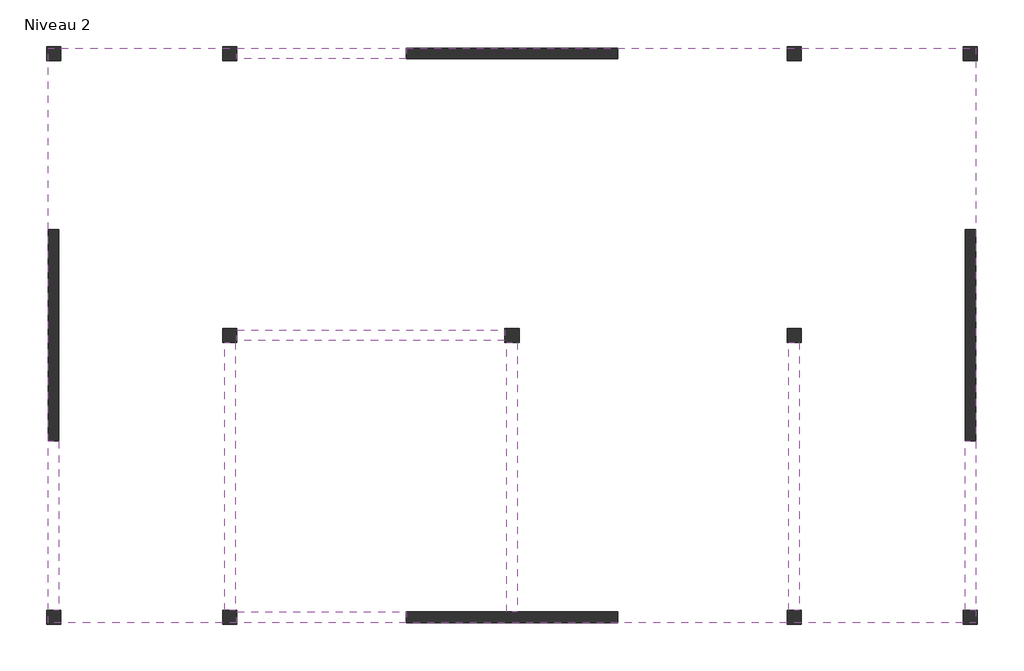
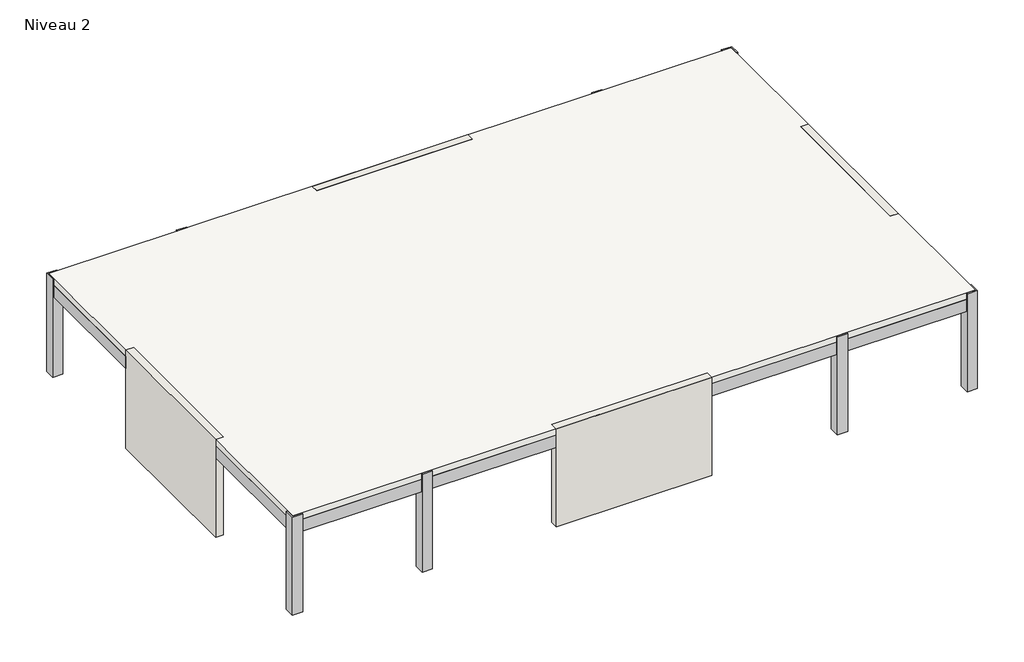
# One storey: 11 columns, 8 beams, 4 walls, 1 slab.
"""IFC4 building model written with IfcOpenShell, lengths in millimetres."""

from ifc_helpers import new_model, si_unit, frame, origin, place, context, project, spatial, polyline, outline, extrude, faceted_brep, element, save

model = new_model("IFC4")

# Units and contexts
model_context = context("Model", 3, world=origin())
ifc_project = project(units=[si_unit("LENGTHUNIT", "METRE", prefix="MILLI")], contexts=[model_context])

# Site, building, storey
site = spatial("IfcSite", under=ifc_project)
building = spatial("IfcBuilding", under=site)
storey = spatial("IfcBuildingStorey", under=building, Name="Niveau 2", Elevation=8000.0)

# Beams
placement = place(None, origin())
element("IfcBeam", 1, ObjectType="Poutre rectangulaire - Béton : 300 x 750 mm", at=placement, inside=storey, context=model_context, shape_type="SweptSolid", body=[
    extrude(outline(polyline([(-16808.6650278, 7952.7596515), (-16508.6650278, 7952.7596515), (-16508.6650278, 3152.7596515), (-16808.6650278, 3152.7596515), (-16808.6650278, 7952.7596515)])), frame((0.0, 0.0, 11250.0), z_axis=(0.0, 0.0, 1.0), x_axis=(1.0, 0.0, 0.0)), (0.0, 0.0, 1.0), 500.0),
    extrude(outline(polyline([(-16508.6650278, -7647.2403485), (-16808.6650278, -7647.2403485), (-16808.6650278, -2847.2403485), (-16508.6650278, -2847.2403485), (-16508.6650278, -7647.2403485)])), frame((0.0, 0.0, 11250.0), z_axis=(0.0, 0.0, 1.0), x_axis=(1.0, 0.0, 0.0)), (0.0, 0.0, 1.0), 500.0),
])
element("IfcBeam", 2, ObjectType="Poutre rectangulaire - Béton : 300 x 750 mm", at=placement, inside=storey, context=model_context, shape_type="SweptSolid", body=[
    extrude(outline(polyline([(-11808.6650278, 7952.7596515), (-11508.6650278, 7952.7596515), (-11508.6650278, 352.7596515), (-11808.6650278, 352.7596515), (-11808.6650278, 7952.7596515)])), frame((0.0, 0.0, 11250.0), z_axis=(0.0, 0.0, 1.0), x_axis=(1.0, 0.0, 0.0)), (0.0, 0.0, 1.0), 500.0),
    extrude(outline(polyline([(-11808.6650278, -47.2403485), (-11508.6650278, -47.2403485), (-11508.6650278, -7647.2403485), (-11808.6650278, -7647.2403485), (-11808.6650278, -47.2403485)])), frame((0.0, 0.0, 11250.0), z_axis=(0.0, 0.0, 1.0), x_axis=(1.0, 0.0, 0.0)), (0.0, 0.0, 1.0), 500.0),
])
element("IfcBeam", 3, ObjectType="Poutre rectangulaire - Béton : 300 x 750 mm", at=placement, inside=storey, context=model_context, shape_type="SweptSolid", body=[
    extrude(outline(polyline([(4491.3349722, 352.7596515), (4191.3349722, 352.7596515), (4191.3349722, 7952.7596515), (4491.3349722, 7952.7596515), (4491.3349722, 352.7596515)])), frame((0.0, 0.0, 11250.0), z_axis=(0.0, 0.0, 1.0), x_axis=(1.0, 0.0, 0.0)), (0.0, 0.0, 1.0), 500.0),
    extrude(outline(polyline([(4491.3349722, -7647.2403485), (4191.3349722, -7647.2403485), (4191.3349722, -47.2403485), (4491.3349722, -47.2403485), (4491.3349722, -7647.2403485)])), frame((0.0, 0.0, 11250.0), z_axis=(0.0, 0.0, 1.0), x_axis=(1.0, 0.0, 0.0)), (0.0, 0.0, 1.0), 500.0),
])
element("IfcBeam", 4, ObjectType="Poutre rectangulaire - Béton : 300 x 750 mm", at=placement, inside=storey, context=model_context, shape_type="SweptSolid", body=[
    extrude(outline(polyline([(9191.3349722, 7952.7596515), (9491.3349722, 7952.7596515), (9491.3349722, 3152.7596515), (9191.3349722, 3152.7596515), (9191.3349722, 7952.7596515)])), frame((0.0, 0.0, 11250.0), z_axis=(0.0, 0.0, 1.0), x_axis=(1.0, 0.0, 0.0)), (0.0, 0.0, 1.0), 500.0),
    extrude(outline(polyline([(9491.3349722, -7647.2403485), (9191.3349722, -7647.2403485), (9191.3349722, -2847.2403485), (9491.3349722, -2847.2403485), (9491.3349722, -7647.2403485)])), frame((0.0, 0.0, 11250.0), z_axis=(0.0, 0.0, 1.0), x_axis=(1.0, 0.0, 0.0)), (0.0, 0.0, 1.0), 500.0),
])
element("IfcBeam", 5, ObjectType="Poutre rectangulaire - Béton : 300 x 750 mm", at=placement, inside=storey, context=model_context, shape_type="SweptSolid", body=[
    extrude(outline(polyline([(9191.3349722, 302.7596515), (9191.3349722, 2.7596515), (4541.3349722, 2.7596515), (4541.3349722, 302.7596515), (9191.3349722, 302.7596515)])), frame((0.0, 0.0, 11250.0), z_axis=(0.0, 0.0, 1.0), x_axis=(1.0, 0.0, 0.0)), (0.0, 0.0, 1.0), 500.0),
    extrude(outline(polyline([(-16508.6650278, 2.7596515), (-16508.6650278, 302.7596515), (-11858.6650278, 302.7596515), (-11858.6650278, 2.7596515), (-16508.6650278, 2.7596515)])), frame((0.0, 0.0, 11250.0), z_axis=(0.0, 0.0, 1.0), x_axis=(1.0, 0.0, 0.0)), (0.0, 0.0, 1.0), 500.0),
    extrude(outline(polyline([(-11458.6650278, 2.7596515), (-11458.6650278, 302.7596515), (-3858.6650278, 302.7596515), (-3858.6650278, 2.7596515), (-11458.6650278, 2.7596515)])), frame((0.0, 0.0, 11250.0), z_axis=(0.0, 0.0, 1.0), x_axis=(1.0, 0.0, 0.0)), (0.0, 0.0, 1.0), 500.0),
    extrude(outline(polyline([(-3458.6650278, 2.7596515), (-3458.6650278, 302.7596515), (4141.3349722, 302.7596515), (4141.3349722, 2.7596515), (-3458.6650278, 2.7596515)])), frame((0.0, 0.0, 11250.0), z_axis=(0.0, 0.0, 1.0), x_axis=(1.0, 0.0, 0.0)), (0.0, 0.0, 1.0), 500.0),
])
element("IfcBeam", 6, ObjectType="Poutre rectangulaire - Béton : 300 x 750 mm", at=placement, inside=storey, context=model_context, shape_type="SweptSolid", body=[
    extrude(outline(polyline([(-3508.6650278, 8002.7596515), (-3508.6650278, 352.7596515), (-3808.6650278, 352.7596515), (-3808.6650278, 8002.7596515), (-3508.6650278, 8002.7596515)])), frame((0.0, 0.0, 11250.0), z_axis=(0.0, 0.0, 1.0), x_axis=(1.0, 0.0, 0.0)), (0.0, 0.0, 1.0), 500.0),
    extrude(outline(polyline([(-3508.6650278, -47.2403485), (-3508.6650278, -7697.2403485), (-3808.6650278, -7697.2403485), (-3808.6650278, -47.2403485), (-3508.6650278, -47.2403485)])), frame((0.0, 0.0, 11250.0), z_axis=(0.0, 0.0, 1.0), x_axis=(1.0, 0.0, 0.0)), (0.0, 0.0, 1.0), 500.0),
])
element("IfcBeam", 7, ObjectType="Poutre rectangulaire - Béton : 300 x 750 mm", at=placement, inside=storey, context=model_context, shape_type="SweptSolid", body=[
    extrude(outline(polyline([(-16458.6650278, -7997.2403485), (-16458.6650278, -7697.2403485), (-11858.6650278, -7697.2403485), (-11858.6650278, -7997.2403485), (-16458.6650278, -7997.2403485)])), frame((0.0, 0.0, 11250.0), z_axis=(0.0, 0.0, 1.0), x_axis=(1.0, 0.0, 0.0)), (0.0, 0.0, 1.0), 500.0),
    extrude(outline(polyline([(-11458.6650278, -7997.2403485), (-11458.6650278, -7697.2403485), (-6658.6650278, -7697.2403485), (-6658.6650278, -7997.2403485), (-11458.6650278, -7997.2403485)])), frame((0.0, 0.0, 11250.0), z_axis=(0.0, 0.0, 1.0), x_axis=(1.0, 0.0, 0.0)), (0.0, 0.0, 1.0), 500.0),
    extrude(outline(polyline([(9141.3349722, -7997.2403485), (4541.3349722, -7997.2403485), (4541.3349722, -7697.2403485), (9141.3349722, -7697.2403485), (9141.3349722, -7997.2403485)])), frame((0.0, 0.0, 11250.0), z_axis=(0.0, 0.0, 1.0), x_axis=(1.0, 0.0, 0.0)), (0.0, 0.0, 1.0), 500.0),
    extrude(outline(polyline([(4141.3349722, -7697.2403485), (4141.3349722, -7997.2403485), (-658.6650278, -7997.2403485), (-658.6650278, -7697.2403485), (4141.3349722, -7697.2403485)])), frame((0.0, 0.0, 11250.0), z_axis=(0.0, 0.0, 1.0), x_axis=(1.0, 0.0, 0.0)), (0.0, 0.0, 1.0), 500.0),
])
element("IfcBeam", 8, ObjectType="Poutre rectangulaire - Béton : 300 x 750 mm", at=placement, inside=storey, context=model_context, shape_type="SweptSolid", body=[
    extrude(outline(polyline([(-11858.6650278, 8002.7596515), (-16458.6650278, 8002.7596515), (-16458.6650278, 8302.7596515), (-11858.6650278, 8302.7596515), (-11858.6650278, 8002.7596515)])), frame((0.0, 0.0, 11250.0), z_axis=(0.0, 0.0, 1.0), x_axis=(1.0, 0.0, 0.0)), (0.0, 0.0, 1.0), 500.0),
    extrude(outline(polyline([(-11458.6650278, 8002.7596515), (-11458.6650278, 8302.7596515), (-6658.6650278, 8302.7596515), (-6658.6650278, 8002.7596515), (-11458.6650278, 8002.7596515)])), frame((0.0, 0.0, 11250.0), z_axis=(0.0, 0.0, 1.0), x_axis=(1.0, 0.0, 0.0)), (0.0, 0.0, 1.0), 500.0),
    extrude(outline(polyline([(9141.3349722, 8002.7596515), (4541.3349722, 8002.7596515), (4541.3349722, 8302.7596515), (9141.3349722, 8302.7596515), (9141.3349722, 8002.7596515)])), frame((0.0, 0.0, 11250.0), z_axis=(0.0, 0.0, 1.0), x_axis=(1.0, 0.0, 0.0)), (0.0, 0.0, 1.0), 500.0),
    extrude(outline(polyline([(4141.3349722, 8302.7596515), (4141.3349722, 8002.7596515), (-658.6650278, 8002.7596515), (-658.6650278, 8302.7596515), (4141.3349722, 8302.7596515)])), frame((0.0, 0.0, 11250.0), z_axis=(0.0, 0.0, 1.0), x_axis=(1.0, 0.0, 0.0)), (0.0, 0.0, 1.0), 500.0),
])

# Columns
element("IfcColumn", 9, ObjectType="Poteau béton - Carré : 400 mm x 400 mm", at=placement, inside=storey, context=model_context, shape_type="Brep", body=[
    faceted_brep([(-16458.6650278, 8352.7596515, 8000.0), (-16458.6650278, 7952.7596515, 8000.0), (-16858.6650278, 7952.7596515, 8000.0), (-16858.6650278, 8352.7596515, 8000.0), (-16458.6650278, 8352.7596515, 12000.0), (-16458.6650278, 8302.7596515, 12000.0), (-16458.6650278, 8302.7596515, 11750.0), (-16458.6650278, 8002.7596515, 11750.0), (-16458.6650278, 7952.7596515, 11750.0), (-16508.6650278, 7952.7596515, 11750.0), (-16808.6650278, 7952.7596515, 11750.0), (-16808.6650278, 7952.7596515, 12000.0), (-16858.6650278, 7952.7596515, 12000.0), (-16858.6650278, 8352.7596515, 12000.0), (-16808.6650278, 8302.7596515, 12000.0), (-16808.6650278, 8302.7596515, 11750.0)], [[[0, 1, 2, 3]], [[1, 0, 4, 5, 6, 7, 8]], [[2, 1, 8, 9, 10, 11, 12]], [[3, 2, 12, 13]], [[0, 3, 13, 4]], [[13, 12, 11, 14, 5, 4]], [[6, 15, 10, 9, 8, 7]], [[15, 14, 11, 10]], [[14, 15, 6, 5]]]),
])
element("IfcColumn", 10, ObjectType="Poteau béton - Carré : 400 mm x 400 mm", at=placement, inside=storey, context=model_context, shape_type="Brep", body=[
    faceted_brep([(-11458.6650278, 8352.7596515, 8000.0), (-11458.6650278, 7952.7596515, 8000.0), (-11858.6650278, 7952.7596515, 8000.0), (-11858.6650278, 8352.7596515, 8000.0), (-11458.6650278, 8352.7596515, 12000.0), (-11458.6650278, 8302.7596515, 12000.0), (-11458.6650278, 8302.7596515, 11750.0), (-11458.6650278, 8002.7596515, 11750.0), (-11458.6650278, 7952.7596515, 11750.0), (-11508.6650278, 7952.7596515, 11750.0), (-11808.6650278, 7952.7596515, 11750.0), (-11858.6650278, 7952.7596515, 11750.0), (-11858.6650278, 8002.7596515, 11750.0), (-11858.6650278, 8302.7596515, 11750.0), (-11858.6650278, 8302.7596515, 12000.0), (-11858.6650278, 8352.7596515, 12000.0)], [[[0, 1, 2, 3]], [[1, 0, 4, 5, 6, 7, 8]], [[2, 1, 8, 9, 10, 11]], [[3, 2, 11, 12, 13, 14, 15]], [[0, 3, 15, 4]], [[4, 15, 14, 5]], [[6, 13, 12, 11, 10, 9, 8, 7]], [[13, 6, 5, 14]]]),
])
element("IfcColumn", 11, ObjectType="Poteau béton - Carré : 400 mm x 400 mm", at=placement, inside=storey, context=model_context, shape_type="Brep", body=[
    faceted_brep([(-11458.6650278, 352.7596515, 8000.0), (-11458.6650278, -47.2403485, 8000.0), (-11858.6650278, -47.2403485, 8000.0), (-11858.6650278, 352.7596515, 8000.0), (-11458.6650278, 352.7596515, 11750.0), (-11458.6650278, 302.7596515, 11750.0), (-11458.6650278, 2.7596515, 11750.0), (-11458.6650278, -47.2403485, 11750.0), (-11508.6650278, -47.2403485, 11750.0), (-11808.6650278, -47.2403485, 11750.0), (-11858.6650278, -47.2403485, 11750.0), (-11858.6650278, 2.7596515, 11750.0), (-11858.6650278, 302.7596515, 11750.0), (-11858.6650278, 352.7596515, 11750.0), (-11808.6650278, 352.7596515, 11750.0), (-11508.6650278, 352.7596515, 11750.0)], [[[0, 1, 2, 3]], [[1, 0, 4, 5, 6, 7]], [[2, 1, 7, 8, 9, 10]], [[3, 2, 10, 11, 12, 13]], [[0, 3, 13, 14, 15, 4]], [[7, 6, 5, 4, 15, 14, 13, 12, 11, 10, 9, 8]]]),
])
element("IfcColumn", 12, ObjectType="Poteau béton - Carré : 400 mm x 400 mm", at=placement, inside=storey, context=model_context, shape_type="Brep", body=[
    faceted_brep([(-3458.6650278, 352.7596515, 8000.0), (-3458.6650278, -47.2403485, 8000.0), (-3858.6650278, -47.2403485, 8000.0), (-3858.6650278, 352.7596515, 8000.0), (-3458.6650278, 352.7596515, 11750.0), (-3458.6650278, 302.7596515, 11750.0), (-3458.6650278, 2.7596515, 11750.0), (-3458.6650278, -47.2403485, 11750.0), (-3508.6650278, -47.2403485, 11750.0), (-3808.6650278, -47.2403485, 11750.0), (-3858.6650278, -47.2403485, 11750.0), (-3858.6650278, 2.7596515, 11750.0), (-3858.6650278, 302.7596515, 11750.0), (-3858.6650278, 352.7596515, 11750.0), (-3808.6650278, 352.7596515, 11750.0), (-3508.6650278, 352.7596515, 11750.0)], [[[0, 1, 2, 3]], [[1, 0, 4, 5, 6, 7]], [[2, 1, 7, 8, 9, 10]], [[3, 2, 10, 11, 12, 13]], [[0, 3, 13, 14, 15, 4]], [[7, 6, 5, 4, 15, 14, 13, 12, 11, 10, 9, 8]]]),
])
element("IfcColumn", 13, ObjectType="Poteau béton - Carré : 400 mm x 400 mm", at=placement, inside=storey, context=model_context, shape_type="Brep", body=[
    faceted_brep([(-16458.6650278, -7647.2403485, 8000.0), (-16458.6650278, -8047.2403485, 8000.0), (-16858.6650278, -8047.2403485, 8000.0), (-16858.6650278, -7647.2403485, 8000.0), (-16458.6650278, -7647.2403485, 11750.0), (-16458.6650278, -7697.2403485, 11750.0), (-16458.6650278, -7997.2403485, 11750.0), (-16458.6650278, -7997.2403485, 12000.0), (-16458.6650278, -8047.2403485, 12000.0), (-16858.6650278, -8047.2403485, 12000.0), (-16858.6650278, -7647.2403485, 12000.0), (-16808.6650278, -7647.2403485, 12000.0), (-16808.6650278, -7647.2403485, 11750.0), (-16508.6650278, -7647.2403485, 11750.0), (-16808.6650278, -7997.2403485, 12000.0), (-16808.6650278, -7997.2403485, 11750.0)], [[[0, 1, 2, 3]], [[1, 0, 4, 5, 6, 7, 8]], [[2, 1, 8, 9]], [[3, 2, 9, 10]], [[0, 3, 10, 11, 12, 13, 4]], [[9, 8, 7, 14, 11, 10]], [[12, 15, 6, 5, 4, 13]], [[15, 14, 7, 6]], [[14, 15, 12, 11]]]),
])
element("IfcColumn", 14, ObjectType="Poteau béton - Carré : 400 mm x 400 mm", at=placement, inside=storey, context=model_context, shape_type="Brep", body=[
    faceted_brep([(-11458.6650278, -7647.2403485, 8000.0), (-11458.6650278, -8047.2403485, 8000.0), (-11858.6650278, -8047.2403485, 8000.0), (-11858.6650278, -7647.2403485, 8000.0), (-11458.6650278, -7647.2403485, 11750.0), (-11458.6650278, -7697.2403485, 11750.0), (-11458.6650278, -7997.2403485, 11750.0), (-11458.6650278, -7997.2403485, 12000.0), (-11458.6650278, -8047.2403485, 12000.0), (-11858.6650278, -8047.2403485, 12000.0), (-11858.6650278, -7997.2403485, 12000.0), (-11858.6650278, -7997.2403485, 11750.0), (-11858.6650278, -7697.2403485, 11750.0), (-11858.6650278, -7647.2403485, 11750.0), (-11808.6650278, -7647.2403485, 11750.0), (-11508.6650278, -7647.2403485, 11750.0)], [[[0, 1, 2, 3]], [[1, 0, 4, 5, 6, 7, 8]], [[2, 1, 8, 9]], [[3, 2, 9, 10, 11, 12, 13]], [[0, 3, 13, 14, 15, 4]], [[9, 8, 7, 10]], [[11, 6, 5, 4, 15, 14, 13, 12]], [[6, 11, 10, 7]]]),
])
element("IfcColumn", 15, ObjectType="Poteau béton - Carré : 400 mm x 400 mm", at=placement, inside=storey, context=model_context, shape_type="Brep", body=[
    faceted_brep([(4541.3349722, -7647.2403485, 8000.0), (4541.3349722, -8047.2403485, 8000.0), (4141.3349722, -8047.2403485, 8000.0), (4141.3349722, -7647.2403485, 8000.0), (4541.3349722, -7647.2403485, 11750.0), (4541.3349722, -7697.2403485, 11750.0), (4541.3349722, -7997.2403485, 11750.0), (4541.3349722, -7997.2403485, 12000.0), (4541.3349722, -8047.2403485, 12000.0), (4141.3349722, -8047.2403485, 12000.0), (4141.3349722, -7997.2403485, 12000.0), (4141.3349722, -7997.2403485, 11750.0), (4141.3349722, -7697.2403485, 11750.0), (4141.3349722, -7647.2403485, 11750.0), (4191.3349722, -7647.2403485, 11750.0), (4491.3349722, -7647.2403485, 11750.0)], [[[0, 1, 2, 3]], [[1, 0, 4, 5, 6, 7, 8]], [[2, 1, 8, 9]], [[3, 2, 9, 10, 11, 12, 13]], [[0, 3, 13, 14, 15, 4]], [[9, 8, 7, 10]], [[11, 6, 5, 4, 15, 14, 13, 12]], [[6, 11, 10, 7]]]),
])
element("IfcColumn", 16, ObjectType="Poteau béton - Carré : 400 mm x 400 mm", at=placement, inside=storey, context=model_context, shape_type="Brep", body=[
    faceted_brep([(9541.3349722, -7647.2403485, 8000.0), (9541.3349722, -8047.2403485, 8000.0), (9141.3349722, -8047.2403485, 8000.0), (9141.3349722, -7647.2403485, 8000.0), (9541.3349722, -7647.2403485, 12000.0), (9541.3349722, -8047.2403485, 12000.0), (9141.3349722, -8047.2403485, 12000.0), (9141.3349722, -7997.2403485, 12000.0), (9141.3349722, -7997.2403485, 11750.0), (9141.3349722, -7697.2403485, 11750.0), (9141.3349722, -7647.2403485, 11750.0), (9191.3349722, -7647.2403485, 11750.0), (9491.3349722, -7647.2403485, 11750.0), (9491.3349722, -7647.2403485, 12000.0), (9491.3349722, -7997.2403485, 12000.0), (9491.3349722, -7997.2403485, 11750.0)], [[[0, 1, 2, 3]], [[1, 0, 4, 5]], [[2, 1, 5, 6]], [[3, 2, 6, 7, 8, 9, 10]], [[0, 3, 10, 11, 12, 13, 4]], [[5, 4, 13, 14, 7, 6]], [[15, 12, 11, 10, 9, 8]], [[14, 15, 8, 7]], [[15, 14, 13, 12]]]),
])
element("IfcColumn", 17, ObjectType="Poteau béton - Carré : 400 mm x 400 mm", at=placement, inside=storey, context=model_context, shape_type="Brep", body=[
    faceted_brep([(4541.3349722, 352.7596515, 8000.0), (4541.3349722, -47.2403485, 8000.0), (4141.3349722, -47.2403485, 8000.0), (4141.3349722, 352.7596515, 8000.0), (4541.3349722, 352.7596515, 11750.0), (4541.3349722, 302.7596515, 11750.0), (4541.3349722, 2.7596515, 11750.0), (4541.3349722, -47.2403485, 11750.0), (4491.3349722, -47.2403485, 11750.0), (4191.3349722, -47.2403485, 11750.0), (4141.3349722, -47.2403485, 11750.0), (4141.3349722, 2.7596515, 11750.0), (4141.3349722, 302.7596515, 11750.0), (4141.3349722, 352.7596515, 11750.0), (4191.3349722, 352.7596515, 11750.0), (4491.3349722, 352.7596515, 11750.0)], [[[0, 1, 2, 3]], [[1, 0, 4, 5, 6, 7]], [[2, 1, 7, 8, 9, 10]], [[3, 2, 10, 11, 12, 13]], [[0, 3, 13, 14, 15, 4]], [[7, 6, 5, 4, 15, 14, 13, 12, 11, 10, 9, 8]]]),
])
element("IfcColumn", 18, ObjectType="Poteau béton - Carré : 400 mm x 400 mm", at=placement, inside=storey, context=model_context, shape_type="Brep", body=[
    faceted_brep([(4541.3349722, 8352.7596515, 8000.0), (4541.3349722, 7952.7596515, 8000.0), (4141.3349722, 7952.7596515, 8000.0), (4141.3349722, 8352.7596515, 8000.0), (4541.3349722, 8352.7596515, 12000.0), (4541.3349722, 8302.7596515, 12000.0), (4541.3349722, 8302.7596515, 11750.0), (4541.3349722, 8002.7596515, 11750.0), (4541.3349722, 7952.7596515, 11750.0), (4491.3349722, 7952.7596515, 11750.0), (4191.3349722, 7952.7596515, 11750.0), (4141.3349722, 7952.7596515, 11750.0), (4141.3349722, 8002.7596515, 11750.0), (4141.3349722, 8302.7596515, 11750.0), (4141.3349722, 8302.7596515, 12000.0), (4141.3349722, 8352.7596515, 12000.0)], [[[0, 1, 2, 3]], [[1, 0, 4, 5, 6, 7, 8]], [[2, 1, 8, 9, 10, 11]], [[3, 2, 11, 12, 13, 14, 15]], [[0, 3, 15, 4]], [[4, 15, 14, 5]], [[6, 13, 12, 11, 10, 9, 8, 7]], [[13, 6, 5, 14]]]),
])
element("IfcColumn", 19, ObjectType="Poteau béton - Carré : 400 mm x 400 mm", at=placement, inside=storey, context=model_context, shape_type="Brep", body=[
    faceted_brep([(9541.3349722, 8352.7596515, 8000.0), (9541.3349722, 7952.7596515, 8000.0), (9141.3349722, 7952.7596515, 8000.0), (9141.3349722, 8352.7596515, 8000.0), (9541.3349722, 8352.7596515, 12000.0), (9541.3349722, 7952.7596515, 12000.0), (9491.3349722, 7952.7596515, 12000.0), (9491.3349722, 7952.7596515, 11750.0), (9191.3349722, 7952.7596515, 11750.0), (9141.3349722, 7952.7596515, 11750.0), (9141.3349722, 8002.7596515, 11750.0), (9141.3349722, 8302.7596515, 11750.0), (9141.3349722, 8302.7596515, 12000.0), (9141.3349722, 8352.7596515, 12000.0), (9491.3349722, 8302.7596515, 12000.0), (9491.3349722, 8302.7596515, 11750.0)], [[[0, 1, 2, 3]], [[1, 0, 4, 5]], [[2, 1, 5, 6, 7, 8, 9]], [[3, 2, 9, 10, 11, 12, 13]], [[0, 3, 13, 4]], [[5, 4, 13, 12, 14, 6]], [[7, 15, 11, 10, 9, 8]], [[15, 14, 12, 11]], [[14, 15, 7, 6]]]),
])

# Slab
element("IfcSlab", 20, ObjectType="Dalle en béton - 250 mm", at=placement, inside=storey, context=model_context, shape_type="Brep", body=[
    faceted_brep([(9491.3349722, -7997.2403485, 11750.0), (9141.3349722, -7997.2403485, 11750.0), (4541.3349722, -7997.2403485, 11750.0), (4141.3349722, -7997.2403485, 11750.0), (-658.6650278, -7997.2403485, 11750.0), (-6658.6650278, -7997.2403485, 11750.0), (-11458.6650278, -7997.2403485, 11750.0), (-11858.6650278, -7997.2403485, 11750.0), (-16458.6650278, -7997.2403485, 11750.0), (-16808.6650278, -7997.2403485, 11750.0), (-16808.6650278, -7647.2403485, 11750.0), (-16808.6650278, -2847.2403485, 11750.0), (-16808.6650278, 3152.7596515, 11750.0), (-16808.6650278, 7952.7596515, 11750.0), (-16808.6650278, 8302.7596515, 11750.0), (-16458.6650278, 8302.7596515, 11750.0), (-11858.6650278, 8302.7596515, 11750.0), (-11458.6650278, 8302.7596515, 11750.0), (-6658.6650278, 8302.7596515, 11750.0), (-658.6650278, 8302.7596515, 11750.0), (4141.3349722, 8302.7596515, 11750.0), (4541.3349722, 8302.7596515, 11750.0), (9141.3349722, 8302.7596515, 11750.0), (9491.3349722, 8302.7596515, 11750.0), (9491.3349722, 7952.7596515, 11750.0), (9491.3349722, 3152.7596515, 11750.0), (9491.3349722, -2847.2403485, 11750.0), (9491.3349722, -7647.2403485, 11750.0), (9491.3349722, -7997.2403485, 12000.0), (9491.3349722, -7647.2403485, 12000.0), (9491.3349722, 7952.7596515, 12000.0), (9491.3349722, 8302.7596515, 12000.0), (9141.3349722, 8302.7596515, 12000.0), (4541.3349722, 8302.7596515, 12000.0), (4141.3349722, 8302.7596515, 12000.0), (-11458.6650278, 8302.7596515, 12000.0), (-11858.6650278, 8302.7596515, 12000.0), (-16458.6650278, 8302.7596515, 12000.0), (-16808.6650278, 8302.7596515, 12000.0), (-16808.6650278, 7952.7596515, 12000.0), (-16808.6650278, -7647.2403485, 12000.0), (-16808.6650278, -7997.2403485, 12000.0), (-16458.6650278, -7997.2403485, 12000.0), (-11858.6650278, -7997.2403485, 12000.0), (-11458.6650278, -7997.2403485, 12000.0), (4141.3349722, -7997.2403485, 12000.0), (4541.3349722, -7997.2403485, 12000.0), (9141.3349722, -7997.2403485, 12000.0)], [[[0, 1, 2, 3, 4, 5, 6, 7, 8, 9, 10, 11, 12, 13, 14, 15, 16, 17, 18, 19, 20, 21, 22, 23, 24, 25, 26, 27]], [[28, 29, 30, 31, 32, 33, 34, 35, 36, 37, 38, 39, 40, 41, 42, 43, 44, 45, 46, 47]], [[9, 8, 7, 6, 5, 4, 3, 2, 1, 0, 28, 47, 46, 45, 44, 43, 42, 41]], [[14, 13, 12, 11, 10, 9, 41, 40, 39, 38]], [[23, 22, 21, 20, 19, 18, 17, 16, 15, 14, 38, 37, 36, 35, 34, 33, 32, 31]], [[0, 27, 26, 25, 24, 23, 31, 30, 29, 28]]]),
])

# Walls
element("IfcWall", 21, ObjectType="Ext. Voile BA 30", at=placement, inside=storey, context=model_context, shape_type="Brep", body=[
    faceted_brep([(-6658.6650278, 8002.7596515, 8000.0), (-658.6650278, 8002.7596515, 8000.0), (-658.6650278, 8002.7596515, 11250.0), (-658.6650278, 8002.7596515, 11750.0), (-658.6650278, 8002.7596515, 12000.0), (-6658.6650278, 8002.7596515, 12000.0), (-6658.6650278, 8002.7596515, 11750.0), (-6658.6650278, 8002.7596515, 11250.0), (-6658.6650278, 8302.7596515, 8000.0), (-6658.6650278, 8302.7596515, 11250.0), (-6658.6650278, 8302.7596515, 11750.0), (-6658.6650278, 8302.7596515, 12000.0), (-658.6650278, 8302.7596515, 12000.0), (-658.6650278, 8302.7596515, 11750.0), (-658.6650278, 8302.7596515, 11250.0), (-658.6650278, 8302.7596515, 8000.0)], [[[0, 1, 2, 3, 4, 5, 6, 7]], [[8, 9, 10, 11, 12, 13, 14, 15]], [[1, 0, 8, 15]], [[4, 3, 2, 1, 15, 14, 13, 12]], [[5, 4, 12, 11]], [[0, 7, 6, 5, 11, 10, 9, 8]]]),
])
element("IfcWall", 22, ObjectType="Ext. Voile BA 30", at=placement, inside=storey, context=model_context, shape_type="Brep", body=[
    faceted_brep([(-6658.6650278, -7997.2403485, 8000.0), (-658.6650278, -7997.2403485, 8000.0), (-658.6650278, -7997.2403485, 11250.0), (-658.6650278, -7997.2403485, 11750.0), (-658.6650278, -7997.2403485, 12000.0), (-6658.6650278, -7997.2403485, 12000.0), (-6658.6650278, -7997.2403485, 11750.0), (-6658.6650278, -7997.2403485, 11250.0), (-6658.6650278, -7697.2403485, 8000.0), (-6658.6650278, -7697.2403485, 11250.0), (-6658.6650278, -7697.2403485, 11750.0), (-6658.6650278, -7697.2403485, 12000.0), (-658.6650278, -7697.2403485, 12000.0), (-658.6650278, -7697.2403485, 11750.0), (-658.6650278, -7697.2403485, 11250.0), (-658.6650278, -7697.2403485, 8000.0)], [[[0, 1, 2, 3, 4, 5, 6, 7]], [[8, 9, 10, 11, 12, 13, 14, 15]], [[1, 0, 8, 15]], [[4, 3, 2, 1, 15, 14, 13, 12]], [[5, 4, 12, 11]], [[0, 7, 6, 5, 11, 10, 9, 8]]]),
])
element("IfcWall", 23, ObjectType="Ext. Voile BA 30", at=placement, inside=storey, context=model_context, shape_type="Brep", body=[
    faceted_brep([(-16508.6650278, -2847.2403485, 8000.0), (-16508.6650278, 3152.7596515, 8000.0), (-16508.6650278, 3152.7596515, 11250.0), (-16508.6650278, 3152.7596515, 11750.0), (-16508.6650278, 3152.7596515, 12000.0), (-16508.6650278, -2847.2403485, 12000.0), (-16508.6650278, -2847.2403485, 11750.0), (-16508.6650278, -2847.2403485, 11250.0), (-16808.6650278, -2847.2403485, 8000.0), (-16808.6650278, -2847.2403485, 11250.0), (-16808.6650278, -2847.2403485, 11750.0), (-16808.6650278, -2847.2403485, 12000.0), (-16808.6650278, 3152.7596515, 12000.0), (-16808.6650278, 3152.7596515, 11750.0), (-16808.6650278, 3152.7596515, 11250.0), (-16808.6650278, 3152.7596515, 8000.0)], [[[0, 1, 2, 3, 4, 5, 6, 7]], [[8, 9, 10, 11, 12, 13, 14, 15]], [[1, 0, 8, 15]], [[4, 3, 2, 1, 15, 14, 13, 12]], [[5, 4, 12, 11]], [[0, 7, 6, 5, 11, 10, 9, 8]]]),
])
element("IfcWall", 24, ObjectType="Ext. Voile BA 30", at=placement, inside=storey, context=model_context, shape_type="Brep", body=[
    faceted_brep([(9491.3349722, -2847.2403485, 8000.0), (9491.3349722, 3152.7596515, 8000.0), (9491.3349722, 3152.7596515, 11250.0), (9491.3349722, 3152.7596515, 11750.0), (9491.3349722, 3152.7596515, 12000.0), (9491.3349722, -2847.2403485, 12000.0), (9491.3349722, -2847.2403485, 11750.0), (9491.3349722, -2847.2403485, 11250.0), (9191.3349722, -2847.2403485, 8000.0), (9191.3349722, -2847.2403485, 11250.0), (9191.3349722, -2847.2403485, 11750.0), (9191.3349722, -2847.2403485, 12000.0), (9191.3349722, 3152.7596515, 12000.0), (9191.3349722, 3152.7596515, 11750.0), (9191.3349722, 3152.7596515, 11250.0), (9191.3349722, 3152.7596515, 8000.0)], [[[0, 1, 2, 3, 4, 5, 6, 7]], [[8, 9, 10, 11, 12, 13, 14, 15]], [[1, 0, 8, 15]], [[4, 3, 2, 1, 15, 14, 13, 12]], [[5, 4, 12, 11]], [[0, 7, 6, 5, 11, 10, 9, 8]]]),
])

save(model, "model.ifc")
